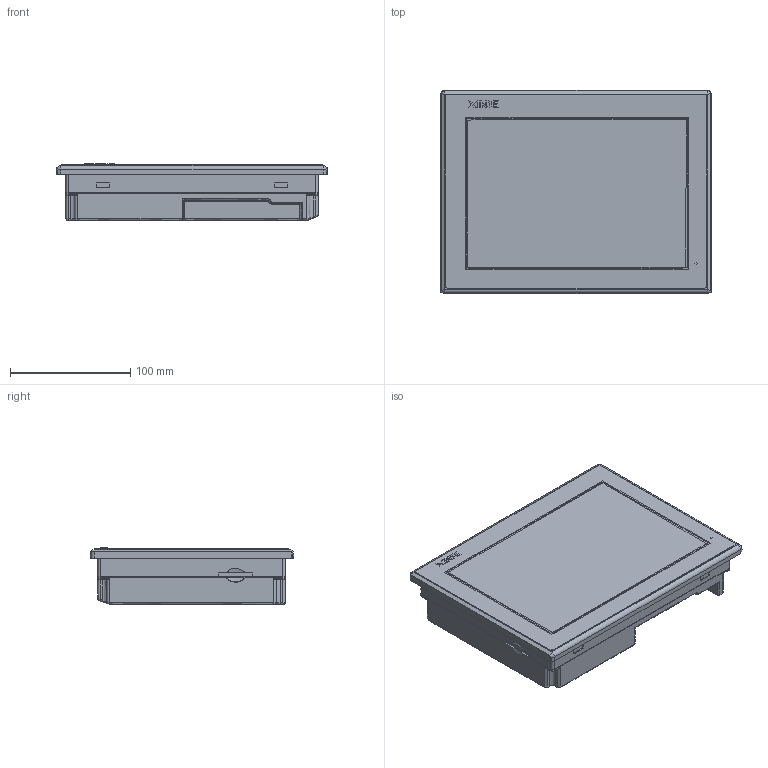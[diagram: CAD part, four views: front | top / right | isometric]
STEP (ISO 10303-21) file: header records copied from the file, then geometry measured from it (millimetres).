
FILE_DESCRIPTION(/* description */ (''),/* implementation_level */ '2;1');
FILE_NAME(/* name */ 'TG865-ET',/* time_stamp */ '2023-04-25T18:59:16+08:00',/* author */ (''),/* organization */ (''),/* preprocessor_version */ 'ST-DEVELOPER v16.5',/* originating_system */ '',/* authorisation */ '');
FILE_SCHEMA (('AUTOMOTIVE_DESIGN'));
Length unit declared in the file: millimetre
Products named in the file (1): Document
Bounding box: 224.4 x 168.7 x 46.8 mm (x, y, z)
Volume: 17478.3 mm3; surface area: 255477.5 mm2
Topology: 1 solids, 1015 shells, 1139 faces, 5267 edges, 5142 vertices
Faces by surface type: bspline 659, plane 480
Entity records: 72990 total; most frequent: CARTESIAN_POINT 45391, ORIENTED_EDGE 5563, EDGE_CURVE 5255, VERTEX_POINT 5138, B_SPLINE_CURVE_WITH_KNOTS 3555, EDGE_LOOP 1174, ADVANCED_FACE 1139, FACE_OUTER_BOUND 1139
